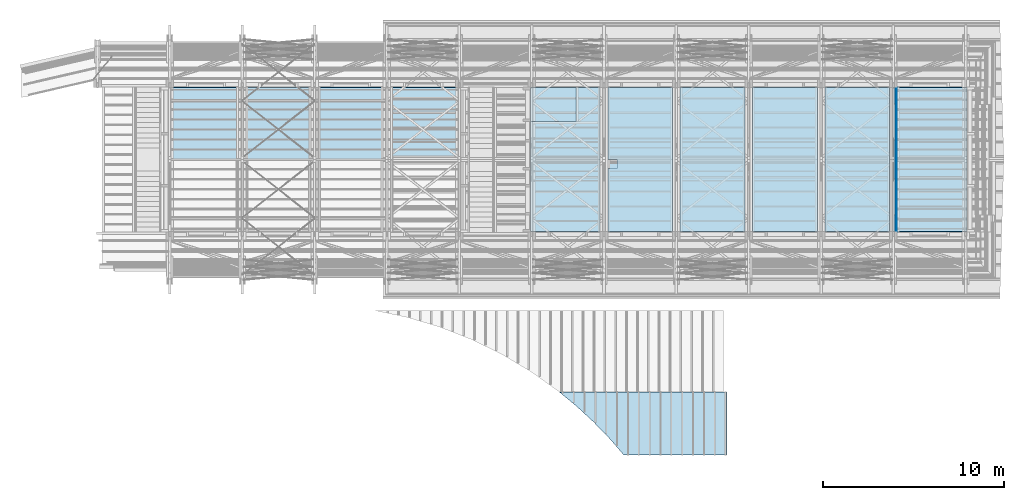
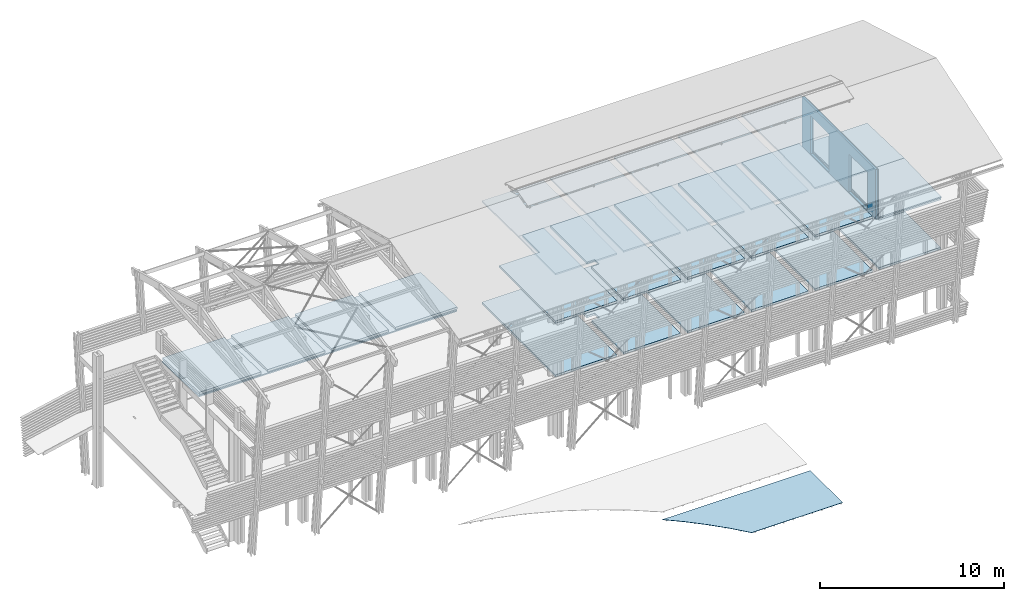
# One storey, part 32 of 48: 31 slabs, 2 walls.
"""IFC2X3 building model written with IfcOpenShell, lengths in metres."""

from ifc_helpers import new_model, si_unit, direction, frame, origin_with_axes, place, context, subcontext, project, spatial, faceted_brep, material, element, save


model = new_model("IFC2X3")

# Units and contexts
model_context = context("Model", 3, precision=1e-06, world=origin_with_axes(), true_north=direction((0.0, 1.0, 0.0)))
body_context = subcontext(model_context, "Body", "Model", "MODEL_VIEW")
ifc_project = project(units=[si_unit("LENGTHUNIT", "METRE"), si_unit("AREAUNIT", "SQUARE_METRE"), si_unit("VOLUMEUNIT", "CUBIC_METRE"), si_unit("PLANEANGLEUNIT", "RADIAN")], contexts=[model_context])

# Site, building, storey
site_placement = place(None, origin_with_axes())
site = spatial("IfcSite", under=ifc_project, at=site_placement, CompositionType="ELEMENT")
building_placement = place(site_placement, origin_with_axes())
building = spatial("IfcBuilding", under=site, at=building_placement, Name="Building 1", CompositionType="ELEMENT")
storey_placement = place(building_placement, origin_with_axes())
storey = spatial("IfcBuildingStorey", under=building, at=storey_placement, Name="Storey 1", CompositionType="ELEMENT", Elevation=0.0)

# Slabs
ifc_material_1 = material(Name="Moabi")
slab_1_placement = place(storey_placement, frame((56.289744, -203.7964204, -0.5605), z_axis=(0.0, 0.0, 1.0), x_axis=(-1.0, 0.0, 0.0)))
element("IfcSlab", 1, at=slab_1_placement, inside=storey, material=ifc_material_1, Name="platelage", PredefinedType="NOTDEFINED", context=body_context, shape_type="Brep", body=[
    faceted_brep([(5.6973003, 1.75, -0.0105), (0.0, 1.75, -0.0105), (5.6973003, 1.75, 0.0105), (0.0, 1.75, 0.0105), (0.0, -1.75, -0.0105), (0.0, -1.75, 0.0105), (9.2827165, -1.75, -0.0105), (9.2827165, -1.75, 0.0105), (8.3151915, -0.9506459, -0.0105), (8.3151915, -0.9506459, 0.0105), (7.3932644, -0.099105, -0.0105), (7.3932644, -0.099105, 0.0105), (6.5197462, 0.8020262, -0.0105), (6.5197462, 0.8020262, 0.0105)], [[[0, 1, 2]], [[2, 1, 3]], [[1, 4, 3]], [[3, 4, 5]], [[4, 6, 5]], [[5, 6, 7]], [[6, 8, 7]], [[7, 8, 9]], [[8, 10, 9]], [[9, 10, 11]], [[10, 12, 11]], [[11, 12, 13]], [[12, 0, 13]], [[13, 0, 2]], [[1, 0, 4]], [[4, 0, 12]], [[4, 12, 10]], [[10, 8, 4]], [[4, 8, 6]], [[7, 9, 5]], [[5, 9, 11]], [[5, 11, 13]], [[13, 2, 5]], [[5, 2, 3]]]),
])
ifc_material_2 = material(Name="Polystyrène expansé")
slab_2_placement = place(storey_placement, frame((67.6405594, -189.2092692, 7.6707734), z_axis=(0.0, 0.0299865, 0.9995503), x_axis=(0.0, 0.9995503, -0.0299865)))
element("IfcSlab", 2, at=slab_2_placement, inside=storey, material=ifc_material_2, Name="isolant sur CLT", PredefinedType="NOTDEFINED", context=body_context, shape_type="Brep", body=[
    faceted_brep([(4.023391, 1.9408157, 0.04), (4.023391, -1.9408157, 0.04), (4.025791, -1.9408157, -0.04), (4.025791, 1.9408157, -0.04), (0.0024, 1.9408157, -0.04), (0.0, 1.9408157, 0.04), (0.0, -1.9408157, 0.04), (0.0024, -1.9408157, -0.04)], [[[0, 1, 2, 3]], [[0, 3, 4, 5]], [[1, 0, 5, 6]], [[5, 4, 7, 6]], [[3, 2, 7, 4]], [[2, 1, 6, 7]]]),
])
slab_3_placement = place(storey_placement, frame((67.6405594, -189.2068703, 7.6707734), z_axis=(0.0, -0.0299865, 0.9995503), x_axis=(0.0, -0.9995503, -0.0299865)))
element("IfcSlab", 3, at=slab_3_placement, inside=storey, material=ifc_material_2, Name="isolant sur CLT", PredefinedType="NOTDEFINED", context=body_context, shape_type="Brep", body=[
    faceted_brep([(4.023391, 1.9408157, 0.04), (4.023391, -1.9408157, 0.04), (4.025791, -1.9408157, -0.04), (4.025791, 1.9408157, -0.04), (0.0, -1.9408157, 0.04), (0.0024, -1.9408157, -0.04), (0.0, 1.9408157, 0.04), (0.0024, 1.9408157, -0.04)], [[[0, 1, 2, 3]], [[2, 1, 4, 5]], [[1, 0, 6, 4]], [[5, 4, 6, 7]], [[3, 2, 5, 7]], [[0, 3, 7, 6]]]),
])
slab_4_placement = place(storey_placement, frame((25.3797437, -187.207279, 7.3300057), z_axis=(0.0, 0.0299865, 0.9995503), x_axis=(1.0, 0.0, 0.0)))
element("IfcSlab", 4, at=slab_4_placement, inside=storey, material=ifc_material_2, Name="isolant sur CLT", PredefinedType="NOTDEFINED", context=body_context, shape_type="Brep", body=[
    faceted_brep([(0.0, 2.0004911, 0.04), (16.18, 2.0004911, 0.04), (16.18, 2.0028911, -0.04), (0.0, 2.0028911, -0.04), (16.18, -2.0028911, 0.04), (16.18, -2.0004911, -0.04), (0.0, -2.0028911, 0.04), (0.0, -2.0004911, -0.04)], [[[0, 1, 2, 3]], [[2, 1, 4, 5]], [[1, 0, 6, 4]], [[5, 4, 6, 7]], [[0, 3, 7, 6]], [[3, 2, 5, 7]]]),
])
ifc_material_3 = material(Name="Cryptoméria")
slab_5_placement = place(storey_placement, frame((59.4897437, -185.2257382, 10.8702831), z_axis=(0.0, 0.0149983, 0.9998875), x_axis=(0.0, -0.9998875, 0.0149983)))
element("IfcSlab", 5, at=slab_5_placement, inside=storey, material=ifc_material_3, Name="CLT", PredefinedType="NOTDEFINED", context=body_context, shape_type="Brep", body=[
    faceted_brep([(0.0, -1.79, -0.05), (0.0, 1.79, -0.05), (3.9820116, 1.79, -0.05), (3.9820116, -1.79, -0.05), (0.0015, 1.79, 0.05), (3.9835116, 1.79, 0.05), (0.0015, -1.79, 0.05), (3.9835116, -1.79, 0.05)], [[[0, 1, 2, 3]], [[2, 1, 4, 5]], [[1, 0, 6, 4]], [[3, 2, 5, 7]], [[0, 3, 7, 6]], [[4, 6, 7, 5]]]),
])
slab_6_placement = place(storey_placement, frame((67.6342437, -193.1896515, 4.145), z_axis=(0.0, 0.0, 1.0), x_axis=(0.0, 1.0, 0.0)))
element("IfcSlab", 6, at=slab_6_placement, inside=storey, material=ifc_material_3, Name="CLT", PredefinedType="NOTDEFINED", context=body_context, shape_type="Brep", body=[
    faceted_brep([(0.0, 1.9345, 0.07), (0.0, 1.9345, -0.07), (0.0, -1.9345, -0.07), (0.0, -1.9345, 0.07), (7.9631634, 1.9345, -0.07), (7.9631634, -1.9345, -0.07), (7.9631634, 1.9345, 0.07), (7.9631634, -1.9345, 0.07)], [[[0, 1, 2, 3]], [[2, 1, 4, 5]], [[1, 0, 6, 4]], [[0, 3, 7, 6]], [[4, 6, 7, 5]], [[3, 2, 5, 7]]]),
])
slab_7_placement = place(storey_placement, frame((47.3497437, -185.2257382, 10.8702831), z_axis=(0.0, 0.0149983, 0.9998875), x_axis=(0.0, -0.9998875, 0.0149983)))
element("IfcSlab", 7, at=slab_7_placement, inside=storey, material=ifc_material_3, Name="CLT", PredefinedType="NOTDEFINED", context=body_context, shape_type="Brep", body=[
    faceted_brep([(0.0, -1.93, -0.05), (0.0, 1.93, -0.05), (3.9820116, 1.93, -0.05), (3.9820116, -1.93, -0.05), (0.0015, 1.93, 0.05), (3.9835116, 1.93, 0.05), (0.0015, -1.93, 0.05), (3.9835116, -1.93, 0.05)], [[[0, 1, 2, 3]], [[2, 1, 4, 5]], [[1, 0, 6, 4]], [[0, 3, 7, 6]], [[3, 2, 5, 7]], [[4, 6, 7, 5]]]),
])
slab_8_placement = place(storey_placement, frame((51.4897437, -185.2257382, 10.8702831), z_axis=(0.0, 0.0149983, 0.9998875), x_axis=(0.0, -0.9998875, 0.0149983)))
element("IfcSlab", 8, at=slab_8_placement, inside=storey, material=ifc_material_3, Name="CLT", PredefinedType="NOTDEFINED", context=body_context, shape_type="Brep", body=[
    faceted_brep([(0.0, -1.79, -0.05), (0.0, 1.79, -0.05), (3.9820116, 1.79, -0.05), (3.9820116, -1.79, -0.05), (0.0015, 1.79, 0.05), (3.9835116, 1.79, 0.05), (0.0015, -1.79, 0.05), (3.9835116, -1.79, 0.05)], [[[0, 1, 2, 3]], [[2, 1, 4, 5]], [[1, 0, 6, 4]], [[3, 2, 5, 7]], [[0, 3, 7, 6]], [[4, 6, 7, 5]]]),
])
slab_9_placement = place(storey_placement, frame((67.6397437, -189.2103188, 7.5557532), z_axis=(0.0, 0.0299865, 0.9995503), x_axis=(0.0, 0.9995503, -0.0299865)))
element("IfcSlab", 9, at=slab_9_placement, inside=storey, material=ifc_material_3, Name="CLT", PredefinedType="NOTDEFINED", context=body_context, shape_type="Brep", body=[
    faceted_brep([(3.987873, 1.94, -0.075), (3.987873, -1.94, -0.075), (0.0045, -1.94, -0.075), (0.0045, 1.94, -0.075), (3.983373, -1.94, 0.075), (0.0, -1.94, 0.075), (3.983373, 1.94, 0.075), (0.0, 1.94, 0.075)], [[[0, 1, 2, 3]], [[2, 1, 4, 5]], [[1, 0, 6, 4]], [[4, 6, 7, 5]], [[3, 2, 5, 7]], [[0, 3, 7, 6]]]),
])
slab_10_placement = place(storey_placement, frame((55.4897437, -185.2257382, 10.8702831), z_axis=(0.0, 0.0149983, 0.9998875), x_axis=(0.0, -0.9998875, 0.0149983)))
element("IfcSlab", 10, at=slab_10_placement, inside=storey, material=ifc_material_3, Name="CLT", PredefinedType="NOTDEFINED", context=body_context, shape_type="Brep", body=[
    faceted_brep([(0.0, -1.79, -0.05), (0.0, 1.79, -0.05), (3.9820116, 1.79, -0.05), (3.9820116, -1.79, -0.05), (0.0015, 1.79, 0.05), (3.9835116, 1.79, 0.05), (0.0015, -1.79, 0.05), (3.9835116, -1.79, 0.05)], [[[0, 1, 2, 3]], [[2, 1, 4, 5]], [[1, 0, 6, 4]], [[3, 2, 5, 7]], [[0, 3, 7, 6]], [[4, 6, 7, 5]]]),
])
slab_11_placement = place(storey_placement, frame((67.6397437, -189.2058208, 7.5557532), z_axis=(0.0, -0.0299865, 0.9995503), x_axis=(0.0, -0.9995503, -0.0299865)))
element("IfcSlab", 11, at=slab_11_placement, inside=storey, material=ifc_material_3, Name="CLT", PredefinedType="NOTDEFINED", context=body_context, shape_type="Brep", body=[
    faceted_brep([(3.987873, 1.94, -0.075), (3.987873, -1.94, -0.075), (0.0045, -1.94, -0.075), (0.0045, 1.94, -0.075), (3.983373, -1.94, 0.075), (0.0, -1.94, 0.075), (3.983373, 1.94, 0.075), (0.0, 1.94, 0.075)], [[[0, 1, 2, 3]], [[2, 1, 4, 5]], [[1, 0, 6, 4]], [[0, 3, 7, 6]], [[4, 6, 7, 5]], [[3, 2, 5, 7]]]),
])
slab_12_placement = place(storey_placement, frame((47.3497437, -193.1903654, 10.8702831), z_axis=(0.0, -0.0149983, 0.9998875), x_axis=(0.0, 0.9998875, 0.0149983)))
element("IfcSlab", 12, at=slab_12_placement, inside=storey, material=ifc_material_3, Name="CLT", PredefinedType="NOTDEFINED", context=body_context, shape_type="Brep", body=[
    faceted_brep([(0.0, -1.93, -0.05), (0.0, 1.93, -0.05), (3.9820116, 1.93, -0.05), (3.9820116, -1.93, -0.05), (3.9835116, -1.93, 0.05), (0.0015, -1.93, 0.05), (0.0015, 1.93, 0.05), (3.9835116, 1.93, 0.05)], [[[0, 1, 2, 3]], [[0, 3, 4, 5]], [[1, 0, 5, 6]], [[2, 1, 6, 7]], [[3, 2, 7, 4]], [[6, 5, 4, 7]]]),
])
for number, where, z_axis, x_axis, name in (
    (13, (51.4897437, -193.1903654, 10.8702831), (0.0, -0.0149983, 0.9998875), (0.0, 0.9998875, 0.0149983), "CLT"),
    (14, (59.4897437, -193.1903654, 10.8702831), (0.0, -0.0149983, 0.9998875), (0.0, 0.9998875, 0.0149983), "CLT"),
):
    element("IfcSlab", number, at=place(storey_placement, frame(where, z_axis=z_axis, x_axis=x_axis)), inside=storey, material=ifc_material_3, Name=name, PredefinedType="NOTDEFINED", context=body_context, shape_type="Brep", body=[
        faceted_brep([(0.0, -1.79, -0.05), (0.0, 1.79, -0.05), (3.9820116, 1.79, -0.05), (3.9820116, -1.79, -0.05), (3.9835116, -1.79, 0.05), (0.0015, -1.79, 0.05), (0.0015, 1.79, 0.05), (3.9835116, 1.79, 0.05)], [[[0, 1, 2, 3]], [[0, 3, 4, 5]], [[1, 0, 5, 6]], [[3, 2, 7, 4]], [[2, 1, 6, 7]], [[6, 5, 4, 7]]]),
    ])
slab_13_placement = place(storey_placement, frame((63.5597437, -193.1903654, 10.8702831), z_axis=(0.0, -0.0149983, 0.9998875), x_axis=(0.0, 0.9998875, 0.0149983)))
element("IfcSlab", 15, at=slab_13_placement, inside=storey, material=ifc_material_3, Name="CLT", PredefinedType="NOTDEFINED", context=body_context, shape_type="Brep", body=[
    faceted_brep([(0.0, -1.86, -0.05), (0.0, 1.86, -0.05), (3.9820116, 1.86, -0.05), (3.9820116, -1.86, -0.05), (3.9835116, -1.86, 0.05), (0.0015, -1.86, 0.05), (0.0015, 1.86, 0.05), (3.9835116, 1.86, 0.05)], [[[0, 1, 2, 3]], [[0, 3, 4, 5]], [[1, 0, 5, 6]], [[2, 1, 6, 7]], [[3, 2, 7, 4]], [[6, 5, 4, 7]]]),
])
slab_14_placement = place(storey_placement, frame((55.4897437, -193.1903654, 10.8702831), z_axis=(0.0, -0.0149983, 0.9998875), x_axis=(0.0, 0.9998875, 0.0149983)))
element("IfcSlab", 16, at=slab_14_placement, inside=storey, material=ifc_material_3, Name="CLT", PredefinedType="NOTDEFINED", context=body_context, shape_type="Brep", body=[
    faceted_brep([(0.0, -1.79, -0.05), (0.0, 1.79, -0.05), (3.9820116, 1.79, -0.05), (3.9820116, -1.79, -0.05), (3.9835116, -1.79, 0.05), (0.0015, -1.79, 0.05), (0.0015, 1.79, 0.05), (3.9835116, 1.79, 0.05)], [[[0, 1, 2, 3]], [[0, 3, 4, 5]], [[1, 0, 5, 6]], [[3, 2, 7, 4]], [[2, 1, 6, 7]], [[6, 5, 4, 7]]]),
])
slab_15_placement = place(storey_placement, frame((63.5597437, -185.2257382, 10.8702831), z_axis=(0.0, 0.0149983, 0.9998875), x_axis=(0.0, -0.9998875, 0.0149983)))
element("IfcSlab", 17, at=slab_15_placement, inside=storey, material=ifc_material_3, Name="CLT", PredefinedType="NOTDEFINED", context=body_context, shape_type="Brep", body=[
    faceted_brep([(0.0, -1.86, -0.05), (0.0, 1.86, -0.05), (3.9820116, 1.86, -0.05), (3.9820116, -1.86, -0.05), (0.0015, 1.86, 0.05), (3.9835116, 1.86, 0.05), (0.0015, -1.86, 0.05), (3.9835116, -1.86, 0.05)], [[[0, 1, 2, 3]], [[2, 1, 4, 5]], [[1, 0, 6, 4]], [[0, 3, 7, 6]], [[3, 2, 5, 7]], [[4, 6, 7, 5]]]),
])
slab_16_placement = place(storey_placement, frame((39.6397437, -185.2242391, 7.4554988), z_axis=(0.0, 0.0299865, 0.9995503), x_axis=(0.0, -0.9995503, 0.0299865)))
element("IfcSlab", 18, at=slab_16_placement, inside=storey, material=ifc_material_3, Name="CLT", PredefinedType="NOTDEFINED", context=body_context, shape_type="Brep", body=[
    faceted_brep([(0.0, -1.94, -0.075), (0.0, 1.94, -0.075), (3.983355, 1.94, -0.075), (3.983355, -1.94, -0.075), (0.0045, 1.94, 0.075), (3.987855, 1.94, 0.075), (0.0045, -1.94, 0.075), (3.987855, -1.94, 0.075)], [[[0, 1, 2, 3]], [[2, 1, 4, 5]], [[1, 0, 6, 4]], [[4, 6, 7, 5]], [[0, 3, 7, 6]], [[3, 2, 5, 7]]]),
])
slab_17_placement = place(storey_placement, frame((51.4897437, -193.1896515, 4.145), z_axis=(0.0, 0.0, 1.0), x_axis=(0.0, 1.0, 0.0)))
element("IfcSlab", 19, at=slab_17_placement, inside=storey, material=ifc_material_3, Name="CLT", PredefinedType="NOTDEFINED", context=body_context, shape_type="Brep", body=[
    faceted_brep([(3.4890817, 1.79, 0.07), (3.4890817, 1.29, 0.07), (3.4890817, 1.29, -0.07), (3.4890817, 1.79, -0.07), (3.9890817, 1.29, 0.07), (3.9890817, 1.29, -0.07), (3.9890817, 1.79, 0.07), (3.9890817, 1.79, -0.07), (0.0, 1.79, 0.07), (0.0, -1.79, 0.07), (7.9631634, -1.79, 0.07), (7.9631634, 1.79, 0.07), (0.0, 1.79, -0.07), (0.0, -1.79, -0.07), (7.9631634, -1.79, -0.07), (7.9631634, 1.79, -0.07)], [[[0, 1, 2, 3]], [[1, 4, 5, 2]], [[4, 6, 7, 5]], [[6, 4, 1, 0, 8, 9, 10, 11]], [[0, 3, 12, 8]], [[13, 9, 8, 12]], [[9, 13, 14, 10]], [[7, 6, 11, 15]], [[10, 14, 15, 11]], [[5, 7, 15, 14, 13, 12, 3, 2]]]),
])
slab_18_placement = place(storey_placement, frame((35.4897437, -185.2242391, 7.4554988), z_axis=(0.0, 0.0299865, 0.9995503), x_axis=(0.0, -0.9995503, 0.0299865)))
element("IfcSlab", 20, at=slab_18_placement, inside=storey, material=ifc_material_3, Name="CLT", PredefinedType="NOTDEFINED", context=body_context, shape_type="Brep", body=[
    faceted_brep([(0.0, -1.79, -0.075), (0.0, 1.79, -0.075), (3.983355, 1.79, -0.075), (3.983355, -1.79, -0.075), (0.0045, 1.79, 0.075), (3.987855, 1.79, 0.075), (0.0045, -1.79, 0.075), (3.987855, -1.79, 0.075)], [[[0, 1, 2, 3]], [[2, 1, 4, 5]], [[1, 0, 6, 4]], [[4, 6, 7, 5]], [[0, 3, 7, 6]], [[3, 2, 5, 7]]]),
])
slab_19_placement = place(storey_placement, frame((27.3452437, -185.2242391, 7.4554988), z_axis=(0.0, 0.0299865, 0.9995503), x_axis=(0.0, -0.9995503, 0.0299865)))
element("IfcSlab", 21, at=slab_19_placement, inside=storey, material=ifc_material_3, Name="CLT", PredefinedType="NOTDEFINED", context=body_context, shape_type="Brep", body=[
    faceted_brep([(0.0, -1.9345, -0.075), (0.0, 1.9345, -0.075), (3.983355, 1.9345, -0.075), (3.983355, -1.9345, -0.075), (0.0045, 1.9345, 0.075), (3.987855, 1.9345, 0.075), (0.0045, -1.9345, 0.075), (3.987855, -1.9345, 0.075)], [[[0, 1, 2, 3]], [[2, 1, 4, 5]], [[1, 0, 6, 4]], [[4, 6, 7, 5]], [[0, 3, 7, 6]], [[3, 2, 5, 7]]]),
])
slab_20_placement = place(storey_placement, frame((31.4897437, -185.2242391, 7.4554988), z_axis=(0.0, 0.0299865, 0.9995503), x_axis=(0.0, -0.9995503, 0.0299865)))
element("IfcSlab", 22, at=slab_20_placement, inside=storey, material=ifc_material_3, Name="CLT", PredefinedType="NOTDEFINED", context=body_context, shape_type="Brep", body=[
    faceted_brep([(0.0, -1.79, -0.075), (0.0, 1.79, -0.075), (3.983355, 1.79, -0.075), (3.983355, -1.79, -0.075), (0.0045, 1.79, 0.075), (3.987855, 1.79, 0.075), (0.0045, -1.79, 0.075), (3.987855, -1.79, 0.075)], [[[0, 1, 2, 3]], [[2, 1, 4, 5]], [[1, 0, 6, 4]], [[4, 6, 7, 5]], [[0, 3, 7, 6]], [[3, 2, 5, 7]]]),
])
slab_21_placement = place(storey_placement, frame((51.4897437, -193.1896515, 7.705), z_axis=(0.0, 0.0, 1.0), x_axis=(0.0, 1.0, 0.0)))
element("IfcSlab", 23, at=slab_21_placement, inside=storey, material=ifc_material_3, Name="CLT", PredefinedType="NOTDEFINED", context=body_context, shape_type="Brep", body=[
    faceted_brep([(3.4890817, 1.79, 0.07), (3.4890817, 1.29, 0.07), (3.4890817, 1.29, -0.07), (3.4890817, 1.79, -0.07), (3.9890817, 1.29, 0.07), (3.9890817, 1.29, -0.07), (3.9890817, 1.79, 0.07), (3.9890817, 1.79, -0.07), (0.0, 1.79, 0.07), (0.0, -1.79, 0.07), (7.9631634, -1.79, 0.07), (7.9631634, 1.79, 0.07), (0.0, 1.79, -0.07), (0.0, -1.79, -0.07), (7.9631634, -1.79, -0.07), (7.9631634, 1.79, -0.07)], [[[0, 1, 2, 3]], [[1, 4, 5, 2]], [[4, 6, 7, 5]], [[6, 4, 1, 0, 8, 9, 10, 11]], [[0, 3, 12, 8]], [[13, 9, 8, 12]], [[9, 13, 14, 10]], [[7, 6, 11, 15]], [[10, 14, 15, 11]], [[5, 7, 15, 14, 13, 12, 3, 2]]]),
])
slab_22_placement = place(storey_placement, frame((63.4897437, -193.1896515, 4.145), z_axis=(0.0, 0.0, 1.0), x_axis=(0.0, 1.0, 0.0)))
element("IfcSlab", 24, at=slab_22_placement, inside=storey, material=ifc_material_3, Name="CLT", PredefinedType="NOTDEFINED", context=body_context, shape_type="Brep", body=[
    faceted_brep([(0.0, -1.79, -0.07), (0.0, -1.79, 0.07), (0.0, 1.79, 0.07), (0.0, 1.79, -0.07), (7.9631634, -1.79, 0.07), (7.9631634, 1.79, 0.07), (7.9631634, -1.79, -0.07), (7.9631634, 1.79, -0.07)], [[[0, 1, 2, 3]], [[2, 1, 4, 5]], [[1, 0, 6, 4]], [[3, 2, 5, 7]], [[4, 6, 7, 5]], [[0, 3, 7, 6]]]),
])
slab_23_placement = place(storey_placement, frame((47.3497437, -193.1896515, 7.705), z_axis=(0.0, 0.0, 1.0), x_axis=(0.0, 1.0, 0.0)))
element("IfcSlab", 25, at=slab_23_placement, inside=storey, material=ifc_material_3, Name="CLT", PredefinedType="NOTDEFINED", context=body_context, shape_type="Brep", body=[
    faceted_brep([(6.083163, 1.93, 0.07), (6.083163, -0.6, 0.07), (6.083163, -0.6, -0.07), (6.083163, 1.93, -0.07), (7.9631634, -0.6, 0.07), (7.9631634, -0.6, -0.07), (0.0, 1.93, 0.07), (0.0, -1.93, 0.07), (7.9631634, -1.93, 0.07), (0.0, 1.93, -0.07), (7.9631634, -1.93, -0.07), (0.0, -1.93, -0.07)], [[[0, 1, 2, 3]], [[1, 4, 5, 2]], [[4, 1, 0, 6, 7, 8]], [[0, 3, 9, 6]], [[2, 5, 10, 11, 9, 3]], [[5, 4, 8, 10]], [[11, 7, 6, 9]], [[7, 11, 10, 8]]]),
])
for number, where, z_axis, x_axis, name in (
    (26, (59.4897437, -193.1896515, 7.705), (0.0, 0.0, 1.0), (0.0, 1.0, 0.0), "CLT"),
    (27, (55.4897437, -193.1896515, 7.705), (0.0, 0.0, 1.0), (0.0, 1.0, 0.0), "CLT"),
    (28, (63.4897437, -193.1896515, 7.705), (0.0, 0.0, 1.0), (0.0, 1.0, 0.0), "CLT"),
):
    element("IfcSlab", number, at=place(storey_placement, frame(where, z_axis=z_axis, x_axis=x_axis)), inside=storey, material=ifc_material_3, Name=name, PredefinedType="NOTDEFINED", context=body_context, shape_type="Brep", body=[
        faceted_brep([(0.0, -1.79, -0.07), (0.0, -1.79, 0.07), (0.0, 1.79, 0.07), (0.0, 1.79, -0.07), (7.9631634, -1.79, 0.07), (7.9631634, 1.79, 0.07), (7.9631634, -1.79, -0.07), (7.9631634, 1.79, -0.07)], [[[0, 1, 2, 3]], [[2, 1, 4, 5]], [[1, 0, 6, 4]], [[3, 2, 5, 7]], [[4, 6, 7, 5]], [[0, 3, 7, 6]]]),
    ])
slab_24_placement = place(storey_placement, frame((47.3497437, -193.1896515, 4.145), z_axis=(0.0, 0.0, 1.0), x_axis=(0.0, 1.0, 0.0)))
element("IfcSlab", 29, at=slab_24_placement, inside=storey, material=ifc_material_3, Name="CLT", PredefinedType="NOTDEFINED", context=body_context, shape_type="Brep", body=[
    faceted_brep([(0.0, 1.93, 0.07), (0.0, -1.93, 0.07), (7.9631634, -1.93, 0.07), (7.9631634, 1.93, 0.07), (7.9631634, -1.93, -0.07), (7.9631634, 1.93, -0.07), (0.0, -1.93, -0.07), (0.0, 1.93, -0.07)], [[[0, 1, 2, 3]], [[2, 4, 5, 3]], [[6, 7, 5, 4]], [[7, 0, 3, 5]], [[6, 1, 0, 7]], [[1, 6, 4, 2]]]),
])
for number, where, z_axis, x_axis, name in (
    (30, (55.4897437, -193.1896515, 4.145), (0.0, 0.0, 1.0), (0.0, 1.0, 0.0), "CLT"),
    (31, (59.4897437, -193.1896515, 4.145), (0.0, 0.0, 1.0), (0.0, 1.0, 0.0), "CLT"),
):
    element("IfcSlab", number, at=place(storey_placement, frame(where, z_axis=z_axis, x_axis=x_axis)), inside=storey, material=ifc_material_3, Name=name, PredefinedType="NOTDEFINED", context=body_context, shape_type="Brep", body=[
        faceted_brep([(0.0, -1.79, -0.07), (0.0, -1.79, 0.07), (0.0, 1.79, 0.07), (0.0, 1.79, -0.07), (7.9631634, -1.79, 0.07), (7.9631634, 1.79, 0.07), (7.9631634, -1.79, -0.07), (7.9631634, 1.79, -0.07)], [[[0, 1, 2, 3]], [[2, 1, 4, 5]], [[1, 0, 6, 4]], [[3, 2, 5, 7]], [[4, 6, 7, 5]], [[0, 3, 7, 6]]]),
    ])

# Walls
ifc_material_4 = material(Name="Paroi")
wall_1_placement = place(storey_placement, frame((65.5497437, -185.2264881, 9.1375), z_axis=(0.0, 0.0, -1.0), x_axis=(0.0, -1.0, 0.0)))
element("IfcWall", 32, at=wall_1_placement, inside=storey, material=ifc_material_4, Name="paroi", context=body_context, shape_type="Brep", body=[
    faceted_brep([(7.9631634, 0.06, 1.6425), (7.9631634, 0.06, -1.6425), (0.0, 0.06, -1.6425), (0.0, 0.06, 1.6425), (7.0573725, 0.06, -0.9325), (7.0573725, 0.06, 1.5875), (5.0573725, 0.06, 1.5875), (5.0573725, 0.06, -0.9325), (0.9057908, 0.06, 1.5875), (0.9057908, 0.06, -0.9325), (2.9057908, 0.06, -0.9325), (2.9057908, 0.06, 1.5875), (0.0, -0.06, -1.6425), (0.0, -0.06, 1.6425), (7.9631634, -0.06, -1.6425), (7.9631634, -0.06, 1.6425), (0.9057908, -0.06, -0.9325), (0.9057908, -0.06, 1.5875), (2.9057908, -0.06, 1.5875), (2.9057908, -0.06, -0.9325), (7.0573725, -0.06, 1.5875), (7.0573725, -0.06, -0.9325), (5.0573725, -0.06, -0.9325), (5.0573725, -0.06, 1.5875)], [[[0, 1, 2, 3], [4, 5, 6, 7], [8, 9, 10, 11]], [[3, 2, 12, 13]], [[14, 15, 13, 12], [16, 17, 18, 19], [20, 21, 22, 23]], [[15, 0, 3, 13]], [[11, 10, 19, 18]], [[8, 11, 18, 17]], [[9, 8, 17, 16]], [[10, 9, 16, 19]], [[7, 6, 23, 22]], [[4, 7, 22, 21]], [[5, 4, 21, 20]], [[6, 5, 20, 23]], [[14, 1, 0, 15]], [[1, 14, 12, 2]]]),
])
ifc_material_5 = material(Name="Bardage")
wall_2_placement = place(storey_placement, frame((65.6497437, -185.2264881, 9.1375), z_axis=(0.0, 0.0, -1.0), x_axis=(0.0, -1.0, 0.0)))
element("IfcWall", 33, at=wall_2_placement, inside=storey, material=ifc_material_5, Name="paroi", context=body_context, shape_type="Brep", body=[
    faceted_brep([(7.9631634, 0.01, 1.6425), (7.9631634, 0.01, -1.6425), (0.0, 0.01, -1.6425), (0.0, 0.01, 1.6425), (5.0573725, 0.01, 1.5875), (5.0573725, 0.01, -0.9325), (7.0573725, 0.01, -0.9325), (7.0573725, 0.01, 1.5875), (2.9057908, 0.01, -0.9325), (2.9057908, 0.01, 1.5875), (0.9057908, 0.01, 1.5875), (0.9057908, 0.01, -0.9325), (0.0, -0.01, -1.6425), (0.0, -0.01, 1.6425), (7.9631634, -0.01, -1.6425), (7.9631634, -0.01, 1.6425), (0.9057908, -0.01, -0.9325), (0.9057908, -0.01, 1.5875), (2.9057908, -0.01, 1.5875), (2.9057908, -0.01, -0.9325), (7.0573725, -0.01, 1.5875), (7.0573725, -0.01, -0.9325), (5.0573725, -0.01, -0.9325), (5.0573725, -0.01, 1.5875)], [[[0, 1, 2, 3], [4, 5, 6, 7], [8, 9, 10, 11]], [[12, 13, 3, 2]], [[14, 15, 13, 12], [16, 17, 18, 19], [20, 21, 22, 23]], [[1, 14, 12, 2]], [[0, 15, 14, 1]], [[15, 0, 3, 13]], [[10, 9, 18, 17]], [[9, 8, 19, 18]], [[6, 5, 22, 21]], [[5, 4, 23, 22]], [[11, 10, 17, 16]], [[8, 11, 16, 19]], [[7, 6, 21, 20]], [[4, 7, 20, 23]]]),
])

save(model, "model.ifc")
